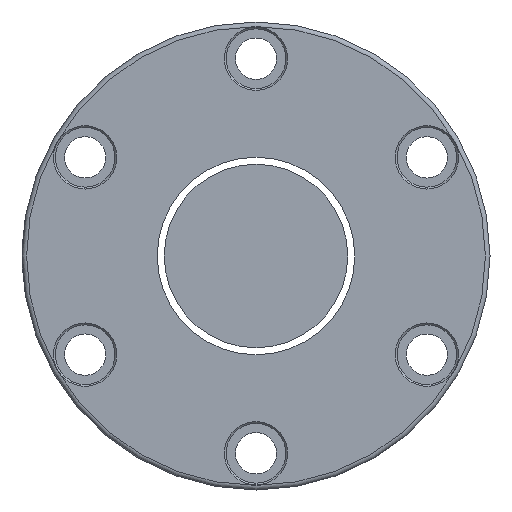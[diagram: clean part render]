
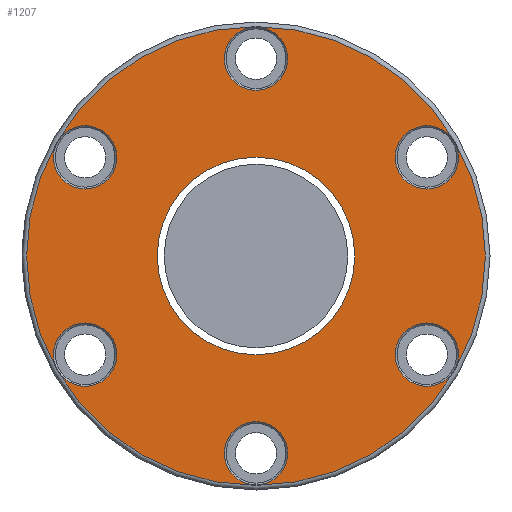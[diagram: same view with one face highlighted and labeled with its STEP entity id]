
A CAD part, left-side view. The second image highlights one B-rep face of the part: STEP entity #1207.
In plain terms, the highlighted planar face has unit normal (-1, 0, 0).
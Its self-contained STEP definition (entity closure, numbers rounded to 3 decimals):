
#18 = DIRECTION ( 'NONE',  ( 1., 0., 0. ) ) ;
#41 = FACE_BOUND ( 'NONE', #1283, .T. ) ;
#64 = VERTEX_POINT ( 'NONE', #1112 ) ;
#71 = CIRCLE ( 'NONE', #510, 43.05 ) ;
#138 = DIRECTION ( 'NONE',  ( 1., 0., 0. ) ) ;
#204 = DIRECTION ( 'NONE',  ( 1., 0., 0. ) ) ;
#245 = EDGE_LOOP ( 'NONE', ( #2805 ) ) ;
#250 = EDGE_CURVE ( 'NONE', #64, #64, #71, .T. ) ;
#293 = CIRCLE ( 'NONE', #2268, 100. ) ;
#305 = CARTESIAN_POINT ( 'NONE',  ( -180., 0., 100. ) ) ;
#313 = EDGE_CURVE ( 'NONE', #2341, #2341, #3067, .T. ) ;
#404 = DIRECTION ( 'NONE',  ( 1., 0., 0. ) ) ;
#423 = DIRECTION ( 'NONE',  ( 1., 0., 0. ) ) ;
#448 = AXIS2_PLACEMENT_3D ( 'NONE', #1489, #204, #2250 ) ;
#455 = EDGE_LOOP ( 'NONE', ( #1776 ) ) ;
#462 = AXIS2_PLACEMENT_3D ( 'NONE', #1317, #1062, #2079 ) ;
#510 = AXIS2_PLACEMENT_3D ( 'NONE', #2314, #18, #2830 ) ;
#650 = EDGE_LOOP ( 'NONE', ( #3057 ) ) ;
#687 = EDGE_LOOP ( 'NONE', ( #2161 ) ) ;
#861 = CARTESIAN_POINT ( 'NONE',  ( -180., 74.478, 43. ) ) ;
#906 = DIRECTION ( 'NONE',  ( 0., 0., 1. ) ) ;
#1062 = DIRECTION ( 'NONE',  ( 1., 0., 0. ) ) ;
#1091 = CARTESIAN_POINT ( 'NONE',  ( -180., 74.478, -29.2 ) ) ;
#1098 = CIRCLE ( 'NONE', #3116, 13.8 ) ;
#1112 = CARTESIAN_POINT ( 'NONE',  ( -180., 0., -43.05 ) ) ;
#1160 = CARTESIAN_POINT ( 'NONE',  ( -180., 0., 0. ) ) ;
#1166 = CARTESIAN_POINT ( 'NONE',  ( -180., 0., -72.2 ) ) ;
#1207 = ADVANCED_FACE ( 'NONE', ( #2085, #1306, #2837, #1324, #2616, #1875, #41, #2118 ), #1860, .T. ) ;
#1236 = EDGE_CURVE ( 'NONE', #2356, #2356, #1098, .T. ) ;
#1283 = EDGE_LOOP ( 'NONE', ( #1398 ) ) ;
#1305 = EDGE_CURVE ( 'NONE', #1362, #1362, #293, .T. ) ;
#1306 = FACE_BOUND ( 'NONE', #2472, .T. ) ;
#1315 = AXIS2_PLACEMENT_3D ( 'NONE', #861, #138, #2178 ) ;
#1317 = CARTESIAN_POINT ( 'NONE',  ( -180., 0., 86. ) ) ;
#1324 = FACE_BOUND ( 'NONE', #1527, .T. ) ;
#1362 = VERTEX_POINT ( 'NONE', #305 ) ;
#1380 = VERTEX_POINT ( 'NONE', #3275 ) ;
#1398 = ORIENTED_EDGE ( 'NONE', *, *, #1804, .T. ) ;
#1428 = DIRECTION ( 'NONE',  ( 0., 0., 1. ) ) ;
#1481 = CIRCLE ( 'NONE', #3024, 13.8 ) ;
#1489 = CARTESIAN_POINT ( 'NONE',  ( -180., 0., -86. ) ) ;
#1493 = EDGE_CURVE ( 'NONE', #2780, #2780, #2166, .T. ) ;
#1527 = EDGE_LOOP ( 'NONE', ( #1571 ) ) ;
#1571 = ORIENTED_EDGE ( 'NONE', *, *, #2297, .T. ) ;
#1698 = AXIS2_PLACEMENT_3D ( 'NONE', #1910, #404, #1428 ) ;
#1776 = ORIENTED_EDGE ( 'NONE', *, *, #313, .T. ) ;
#1804 = EDGE_CURVE ( 'NONE', #1867, #1867, #1481, .T. ) ;
#1828 = DIRECTION ( 'NONE',  ( -1., 0., 0. ) ) ;
#1851 = CARTESIAN_POINT ( 'NONE',  ( -180., 0., 99.8 ) ) ;
#1860 = PLANE ( 'NONE',  #2910 ) ;
#1867 = VERTEX_POINT ( 'NONE', #1091 ) ;
#1875 = FACE_BOUND ( 'NONE', #245, .T. ) ;
#1910 = CARTESIAN_POINT ( 'NONE',  ( -180., -74.478, 43. ) ) ;
#2079 = DIRECTION ( 'NONE',  ( 0., 0., 1. ) ) ;
#2085 = FACE_OUTER_BOUND ( 'NONE', #687, .T. ) ;
#2118 = FACE_BOUND ( 'NONE', #2199, .T. ) ;
#2125 = CARTESIAN_POINT ( 'NONE',  ( -180., -74.478, -29.2 ) ) ;
#2161 = ORIENTED_EDGE ( 'NONE', *, *, #1305, .T. ) ;
#2166 = CIRCLE ( 'NONE', #1315, 13.8 ) ;
#2172 = DIRECTION ( 'NONE',  ( 0., 0., 1. ) ) ;
#2178 = DIRECTION ( 'NONE',  ( 0., 0., 1. ) ) ;
#2199 = EDGE_LOOP ( 'NONE', ( #2941 ) ) ;
#2226 = CIRCLE ( 'NONE', #1698, 13.8 ) ;
#2250 = DIRECTION ( 'NONE',  ( 0., 0., 1. ) ) ;
#2268 = AXIS2_PLACEMENT_3D ( 'NONE', #1160, #2903, #2172 ) ;
#2297 = EDGE_CURVE ( 'NONE', #1380, #1380, #2226, .T. ) ;
#2314 = CARTESIAN_POINT ( 'NONE',  ( -180., 0., 0. ) ) ;
#2341 = VERTEX_POINT ( 'NONE', #1851 ) ;
#2356 = VERTEX_POINT ( 'NONE', #2125 ) ;
#2366 = DIRECTION ( 'NONE',  ( 0., 0., 1. ) ) ;
#2416 = CIRCLE ( 'NONE', #448, 13.8 ) ;
#2472 = EDGE_LOOP ( 'NONE', ( #3152 ) ) ;
#2616 = FACE_BOUND ( 'NONE', #455, .T. ) ;
#2663 = VERTEX_POINT ( 'NONE', #1166 ) ;
#2707 = CARTESIAN_POINT ( 'NONE',  ( -180., -74.478, -43. ) ) ;
#2726 = DIRECTION ( 'NONE',  ( 1., 0., 0. ) ) ;
#2741 = DIRECTION ( 'NONE',  ( 0., 0., 1. ) ) ;
#2780 = VERTEX_POINT ( 'NONE', #3109 ) ;
#2805 = ORIENTED_EDGE ( 'NONE', *, *, #1493, .T. ) ;
#2830 = DIRECTION ( 'NONE',  ( 0., 0., -1. ) ) ;
#2837 = FACE_BOUND ( 'NONE', #650, .T. ) ;
#2903 = DIRECTION ( 'NONE',  ( -1., 0., 0. ) ) ;
#2910 = AXIS2_PLACEMENT_3D ( 'NONE', #3088, #1828, #2366 ) ;
#2941 = ORIENTED_EDGE ( 'NONE', *, *, #250, .T. ) ;
#3000 = CARTESIAN_POINT ( 'NONE',  ( -180., 74.478, -43. ) ) ;
#3024 = AXIS2_PLACEMENT_3D ( 'NONE', #3000, #2726, #2741 ) ;
#3057 = ORIENTED_EDGE ( 'NONE', *, *, #1236, .T. ) ;
#3067 = CIRCLE ( 'NONE', #462, 13.8 ) ;
#3088 = CARTESIAN_POINT ( 'NONE',  ( -180., 102., 0. ) ) ;
#3109 = CARTESIAN_POINT ( 'NONE',  ( -180., 74.478, 56.8 ) ) ;
#3116 = AXIS2_PLACEMENT_3D ( 'NONE', #2707, #423, #906 ) ;
#3152 = ORIENTED_EDGE ( 'NONE', *, *, #3247, .T. ) ;
#3247 = EDGE_CURVE ( 'NONE', #2663, #2663, #2416, .T. ) ;
#3275 = CARTESIAN_POINT ( 'NONE',  ( -180., -74.478, 56.8 ) ) ;
